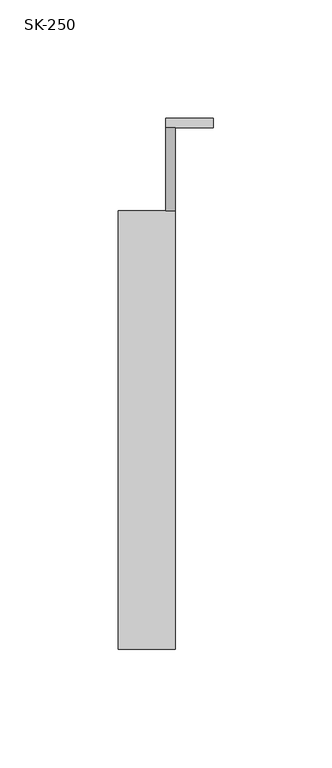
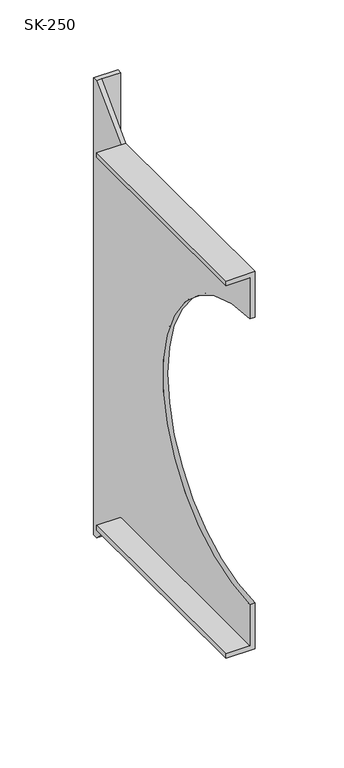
"""IFC4 building model written with IfcOpenShell, lengths in millimetres: duct fitting geometry, СВ_Кронштейн_Круглый_DN100-315_SK : SK-250."""

from ifc_helpers import new_model, si_unit, frame, origin, place, context, project, spatial, polyline, circle_curve, source, transform, mapped, element, save
from ifc_brep_helpers import plane_surface, revolved_surface, advanced_brep


def sk_250_66cdbe5c(model_context):
    return source(origin(), model_context, "Body", "AdvancedBrep", [
        advanced_brep(
        [(4.0, 220.0, 200.0), (4.0, 185.0, 165.0), (4.0, 0.0, 165.0), (4.0, 0.0, 125.0), (4.0, 0.0, -125.0), (4.0, 0.0, -165.0), (4.0, 185.0, -165.0), (4.0, 220.0, -200.0), (0.0, 220.0, -200.0), (0.0, 185.0, -165.0), (0.0, 185.0, -161.0), (0.0, 0.0, -161.0), (0.0, 0.0, -125.0), (0.0, 0.0, 125.0), (0.0, 0.0, 161.0), (0.0, 185.0, 161.0), (0.0, 185.0, 165.0), (0.0, 220.0, 200.0), (0.0, 224.0, 200.0), (0.0, 224.0, -200.0), (-20.0, 185.0, 165.0), (-20.0, 0.0, 165.0), (-20.0, 0.0, 161.0), (-20.0, 0.0, -161.0), (-20.0, 0.0, -165.0), (-20.0, 185.0, -165.0), (-20.0, 185.0, -161.0), (-20.0, 185.0, 161.0), (20.0, 220.0, -200.0), (20.0, 224.0, -200.0), (20.0, 224.0, 200.0), (20.0, 220.0, 200.0)],
        [
            (0, 1),
            (1, 2),
            (2, 3),
            (3, 4, circle_curve(frame((4.0, 0.0, 0.0), z_axis=(-1.0, 0.0, 0.0), x_axis=(0.0, 1.0, 0.0)), 125.0)),
            (4, 5),
            (5, 6),
            (6, 7),
            (7, 0),
            (8, 9),
            (9, 10),
            (10, 11),
            (11, 12),
            (12, 13, circle_curve(frame((0.0, 0.0, 0.0), z_axis=(1.0, 0.0, 0.0), x_axis=(0.0, 1.0, 0.0)), 125.0)),
            (13, 14),
            (14, 15),
            (15, 16),
            (16, 17),
            (17, 18),
            (18, 19),
            (19, 8),
            (0, 17),
            (16, 1),
            (16, 20),
            (20, 21),
            (21, 2),
            (21, 22),
            (22, 14),
            (13, 3),
            (12, 4),
            (11, 23),
            (23, 24),
            (24, 5),
            (24, 25),
            (25, 9),
            (9, 6),
            (8, 7),
            (23, 26),
            (26, 25),
            (27, 22),
            (20, 27),
            (15, 27),
            (26, 10),
            (28, 29),
            (29, 30),
            (30, 31),
            (31, 28),
            (19, 29),
            (28, 7),
            (18, 30),
            (0, 31),
        ],
        [
            plane_surface(frame((4.0, 220.0, 200.0), z_axis=(1.0, 0.0, 0.0), x_axis=(0.0, 0.0, 1.0))),
            plane_surface(frame((0.0, 220.0, 200.0), z_axis=(-1.0, 0.0, 0.0), x_axis=(0.0, 0.0, -1.0))),
            plane_surface(frame((4.0, 220.0, 200.0), z_axis=(0.0, -0.7071067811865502, 0.7071067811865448), x_axis=(-1.0, 0.0, 0.0))),
            plane_surface(frame((4.0, 185.0, 165.0), z_axis=(0.0, 0.0, 1.0), x_axis=(-1.0, 0.0, 0.0))),
            plane_surface(frame((4.0, 0.0, 165.0), z_axis=(0.0, -1.0, 0.0), x_axis=(-1.0, 0.0, 0.0))),
            revolved_surface(polyline([(0.0, 125.0, 0.0), (4.0, 125.0, 0.0)]), (0.0, 0.0, 0.0), (-1.0, 0.0, 0.0)),
            plane_surface(frame((4.0, 0.0, -125.0), z_axis=(0.0, -1.0, 0.0), x_axis=(-1.0, 0.0, 0.0))),
            plane_surface(frame((4.0, 0.0, -165.0), z_axis=(0.0, 0.0, -1.0), x_axis=(-1.0, 0.0, 0.0))),
            plane_surface(frame((4.0, 185.0, -165.0), z_axis=(0.0, -0.7071067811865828, -0.7071067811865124), x_axis=(-1.0, 0.0, 0.0))),
            plane_surface(frame((-20.0, 185.0, 165.0), z_axis=(-1.0, 0.0, 0.0), x_axis=(0.0, 0.0, -1.0))),
            plane_surface(frame((0.0, 185.0, 161.0), z_axis=(0.0, 1.0, 0.0), x_axis=(-1.0, 0.0, 0.0))),
            plane_surface(frame((0.0, 0.0, 161.0), z_axis=(0.0, 0.0, -1.0), x_axis=(-1.0, 0.0, 0.0))),
            plane_surface(frame((0.0, 185.0, -165.0), z_axis=(0.0, 1.0, 0.0), x_axis=(-1.0, 0.0, 0.0))),
            plane_surface(frame((0.0, 185.0, -161.0), z_axis=(0.0, 0.0, 1.0), x_axis=(-1.0, 0.0, 0.0))),
            plane_surface(frame((20.0, 220.0, -200.0), z_axis=(1.0, 0.0, 0.0), x_axis=(0.0, 1.0, 0.0))),
            plane_surface(frame((20.0, 220.0, -200.0), z_axis=(0.0, 0.0, -1.0), x_axis=(-1.0, 0.0, 0.0))),
            plane_surface(frame((20.0, 224.0, -200.0), z_axis=(0.0, 1.0, 0.0), x_axis=(-1.0, 0.0, 0.0))),
            plane_surface(frame((20.0, 224.0, 200.0), z_axis=(0.0, 0.0, 1.0), x_axis=(-1.0, 0.0, 0.0))),
            plane_surface(frame((20.0, 220.0, 200.0), z_axis=(0.0, -1.0, 0.0), x_axis=(-1.0, 0.0, 0.0))),
        ],
        [
            (0, [[1, 2, 3, 4, 5, 6, 7, 8]]),
            (1, [[9, 10, 11, 12, 13, 14, 15, 16, 17, 18, 19, 20]]),
            (2, [[-1, 21, -17, 22]]),
            (3, [[-2, -22, 23, 24, 25]]),
            (4, [[-3, -25, 26, 27, -14, 28]]),
            (5, [[-4, -28, -13, 29]]),
            (6, [[-5, -29, -12, 30, 31, 32]]),
            (7, [[-6, -32, 33, 34, 35]]),
            (8, [[-7, -35, -9, 36]]),
            (9, [[-33, -31, 37, 38]]),
            (9, [[39, -26, -24, 40]]),
            (10, [[-40, -23, -16, 41]]),
            (11, [[-39, -41, -15, -27]]),
            (12, [[-38, 42, -10, -34]]),
            (13, [[-37, -30, -11, -42]]),
            (14, [[43, 44, 45, 46]]),
            (15, [[-20, 47, -43, 48, -36]]),
            (16, [[-19, 49, -44, -47]]),
            (17, [[-18, -21, 50, -45, -49]]),
            (18, [[-46, -50, -8, -48]]),
        ],
    ),
    ])


if __name__ == "__main__":
    model = new_model("IFC4")
    model_context = context("Model", 3, world=origin())
    ifc_project = project(units=[si_unit("LENGTHUNIT", "METRE", prefix="MILLI")], contexts=[model_context])
    site = spatial("IfcSite", under=ifc_project)
    building = spatial("IfcBuilding", under=site)
    placement = place(None, origin())
    sk_250_shape = sk_250_66cdbe5c(model_context)
    element("IfcDuctFitting", 1, ObjectType="СВ_Кронштейн_Круглый_DN100-315_SK : SK-250", at=placement, inside=building, context=model_context, shape_type="MappedRepresentation", body=[
        mapped(sk_250_shape, transform((0.0, 0.0, 0.0), x_axis=(1.0, 0.0, 0.0), y_axis=(0.0, 1.0, 0.0), z_axis=(0.0, 0.0, 1.0))),
    ])
    save(model, "model.ifc")
